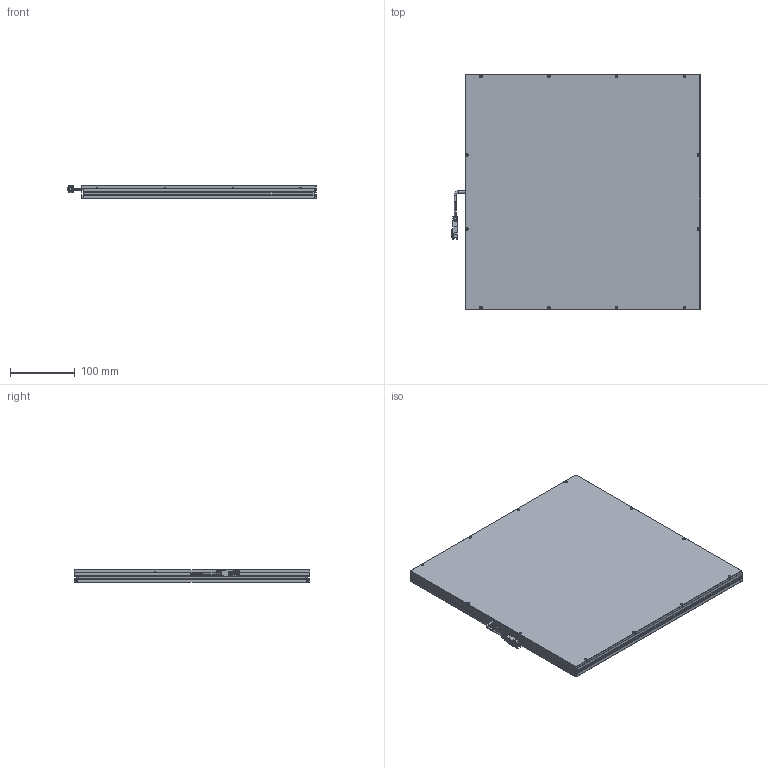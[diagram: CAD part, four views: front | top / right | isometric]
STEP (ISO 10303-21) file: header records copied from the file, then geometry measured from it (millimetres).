
FILE_DESCRIPTION (( 'STEP AP203' ), '1' );
FILE_NAME ('CRT-2FLD350350-¼òÒ×3DÍ¼.STEP', '2021-11-24T01:08:23', ( 'Admin' ), ( '' ), 'SwSTEP 2.0', 'SolidWorks 2018', '' );
FILE_SCHEMA (( 'CONFIG_CONTROL_DESIGN' ));
Length unit declared in the file: millimetre
Products named in the file (1): CRT-2FLD350350-潠眢3D芞
Bounding box: 384.95 x 364 x 20 mm (x, y, z)
Surface area: 314406.1 mm2 (no closed solid volume)
Topology: 0 solids, 9 shells, 279 faces, 1032 edges, 728 vertices
Faces by surface type: plane 156, cylinder 106, cone 11, bspline 5, torus 1
Entity records: 11324 total; most frequent: CARTESIAN_POINT 2611, DIRECTION 1828, ORIENTED_EDGE 1561, EDGE_CURVE 1032, VERTEX_POINT 728, VECTOR 664, LINE 664, AXIS2_PLACEMENT_3D 582
